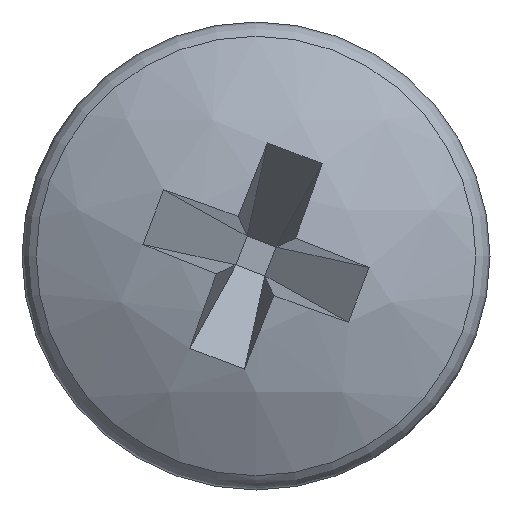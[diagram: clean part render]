
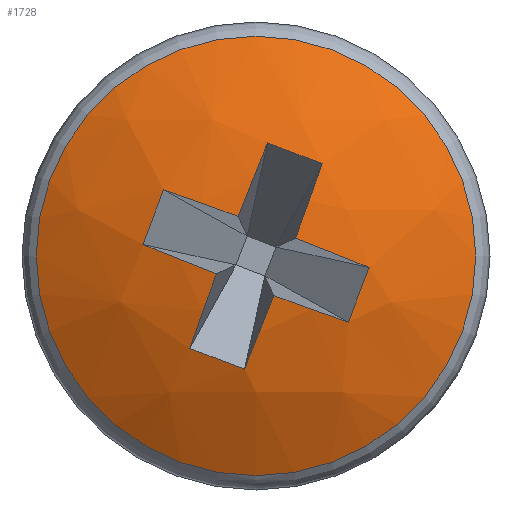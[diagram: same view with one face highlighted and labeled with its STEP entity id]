
A CAD part, front view. The second image highlights one B-rep face of the part: STEP entity #1728.
In plain terms, the highlighted spherical face has radius 5 mm.
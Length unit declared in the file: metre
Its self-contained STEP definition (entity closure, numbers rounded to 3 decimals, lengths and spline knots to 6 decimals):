
#210=B_SPLINE_CURVE_WITH_KNOTS('',3,(#2890,#2891,#2892,#2893),
 .UNSPECIFIED.,.F.,.F.,(4,4),(164.750948,175.786864),
 .UNSPECIFIED.);
#211=B_SPLINE_CURVE_WITH_KNOTS('',3,(#2896,#2897,#2898,#2899),
 .UNSPECIFIED.,.F.,.F.,(4,4),(175.71549,184.28451),
 .UNSPECIFIED.);
#212=B_SPLINE_CURVE_WITH_KNOTS('',3,(#2901,#2902,#2903,#2904),
 .UNSPECIFIED.,.F.,.F.,(4,4),(4.213136,15.249052),
 .UNSPECIFIED.);
#213=B_SPLINE_CURVE_WITH_KNOTS('',3,(#2906,#2907,#2908,#2909),
 .UNSPECIFIED.,.F.,.F.,(4,4),(344.750948,355.786864),
 .UNSPECIFIED.);
#214=B_SPLINE_CURVE_WITH_KNOTS('',3,(#2911,#2912,#2913,#2914),
 .UNSPECIFIED.,.F.,.F.,(4,4),(175.71549,184.28451),
 .UNSPECIFIED.);
#215=B_SPLINE_CURVE_WITH_KNOTS('',3,(#2916,#2917,#2918,#2919),
 .UNSPECIFIED.,.F.,.F.,(4,4),(184.213136,195.249052),
 .UNSPECIFIED.);
#216=B_SPLINE_CURVE_WITH_KNOTS('',3,(#2921,#2922,#2923,#2924),
 .UNSPECIFIED.,.F.,.F.,(4,4),(344.750948,355.786864),
 .UNSPECIFIED.);
#217=B_SPLINE_CURVE_WITH_KNOTS('',3,(#2926,#2927,#2928,#2929),
 .UNSPECIFIED.,.F.,.F.,(4,4),(355.71549,364.28451),
 .UNSPECIFIED.);
#218=B_SPLINE_CURVE_WITH_KNOTS('',3,(#2931,#2932,#2933,#2934),
 .UNSPECIFIED.,.F.,.F.,(4,4),(184.213136,195.249052),
 .UNSPECIFIED.);
#219=B_SPLINE_CURVE_WITH_KNOTS('',3,(#2936,#2937,#2938,#2939),
 .UNSPECIFIED.,.F.,.F.,(4,4),(164.750948,175.786864),
 .UNSPECIFIED.);
#220=B_SPLINE_CURVE_WITH_KNOTS('',3,(#2941,#2942,#2943,#2944),
 .UNSPECIFIED.,.F.,.F.,(4,4),(355.71549,364.28451),
 .UNSPECIFIED.);
#221=B_SPLINE_CURVE_WITH_KNOTS('',3,(#2946,#2947,#2948,#2949),
 .UNSPECIFIED.,.F.,.F.,(4,4),(4.213136,15.249052),
 .UNSPECIFIED.);
#222=ORIENTED_EDGE('',*,*,#584,.T.);
#223=ORIENTED_EDGE('',*,*,#585,.F.);
#224=ORIENTED_EDGE('',*,*,#586,.T.);
#225=ORIENTED_EDGE('',*,*,#587,.F.);
#226=ORIENTED_EDGE('',*,*,#588,.F.);
#227=ORIENTED_EDGE('',*,*,#589,.T.);
#228=ORIENTED_EDGE('',*,*,#590,.F.);
#229=ORIENTED_EDGE('',*,*,#591,.F.);
#230=ORIENTED_EDGE('',*,*,#592,.T.);
#231=ORIENTED_EDGE('',*,*,#593,.F.);
#232=ORIENTED_EDGE('',*,*,#594,.F.);
#233=ORIENTED_EDGE('',*,*,#595,.T.);
#234=ORIENTED_EDGE('',*,*,#596,.F.);
#584=EDGE_CURVE('',#765,#765,#934,.T.);
#585=EDGE_CURVE('',#766,#767,#210,.T.);
#586=EDGE_CURVE('',#766,#768,#211,.F.);
#587=EDGE_CURVE('',#769,#768,#212,.T.);
#588=EDGE_CURVE('',#770,#769,#213,.T.);
#589=EDGE_CURVE('',#770,#771,#214,.F.);
#590=EDGE_CURVE('',#772,#771,#215,.T.);
#591=EDGE_CURVE('',#773,#772,#216,.T.);
#592=EDGE_CURVE('',#773,#774,#217,.F.);
#593=EDGE_CURVE('',#775,#774,#218,.T.);
#594=EDGE_CURVE('',#776,#775,#219,.T.);
#595=EDGE_CURVE('',#776,#777,#220,.F.);
#596=EDGE_CURVE('',#767,#777,#221,.T.);
#765=VERTEX_POINT('',#2889);
#766=VERTEX_POINT('',#2894);
#767=VERTEX_POINT('',#2895);
#768=VERTEX_POINT('',#2900);
#769=VERTEX_POINT('',#2905);
#770=VERTEX_POINT('',#2910);
#771=VERTEX_POINT('',#2915);
#772=VERTEX_POINT('',#2920);
#773=VERTEX_POINT('',#2925);
#774=VERTEX_POINT('',#2930);
#775=VERTEX_POINT('',#2935);
#776=VERTEX_POINT('',#2940);
#777=VERTEX_POINT('',#2945);
#934=CIRCLE('',#1909,0.002629);
#1087=EDGE_LOOP('',(#222));
#1088=EDGE_LOOP('',(#223,#224,#225,#226,#227,#228,#229,#230,#231,#232,#233,
#234));
#1407=FACE_BOUND('',#1087,.T.);
#1408=FACE_BOUND('',#1088,.T.);
#1727=SPHERICAL_SURFACE('',#1908,0.005);
#1728=ADVANCED_FACE('',(#1407,#1408),#1727,.T.);
#1908=AXIS2_PLACEMENT_3D('',#2887,#2230,#2231);
#1909=AXIS2_PLACEMENT_3D('',#2888,#2232,#2233);
#2230=DIRECTION('',(0.,0.,1.));
#2231=DIRECTION('',(1.,0.,0.));
#2232=DIRECTION('',(0.,-1.,0.));
#2233=DIRECTION('',(0.,0.,-1.));
#2887=CARTESIAN_POINT('',(-0.0155,0.0048,-0.0155));
#2888=CARTESIAN_POINT('',(-0.0155,0.000547,-0.0155));
#2889=CARTESIAN_POINT('',(-0.0155,0.000547,-0.018129));
#2890=CARTESIAN_POINT('',(-0.014147,-0.000011,-0.015638));
#2891=CARTESIAN_POINT('',(-0.014433,-0.000095,-0.01552));
#2892=CARTESIAN_POINT('',(-0.014729,-0.00015,-0.015402));
#2893=CARTESIAN_POINT('',(-0.015027,-0.000173,-0.015287));
#2894=CARTESIAN_POINT('',(-0.014147,-0.000011,-0.015638));
#2895=CARTESIAN_POINT('',(-0.015027,-0.000173,-0.015287));
#2896=CARTESIAN_POINT('',(-0.014395,-0.000011,-0.016293));
#2897=CARTESIAN_POINT('',(-0.014303,-0.000026,-0.016079));
#2898=CARTESIAN_POINT('',(-0.01422,-0.000026,-0.015859));
#2899=CARTESIAN_POINT('',(-0.014147,-0.000011,-0.015638));
#2900=CARTESIAN_POINT('',(-0.014395,-0.000011,-0.016293));
#2901=CARTESIAN_POINT('',(-0.015287,-0.000173,-0.015973));
#2902=CARTESIAN_POINT('',(-0.014987,-0.00015,-0.016084));
#2903=CARTESIAN_POINT('',(-0.014687,-0.000095,-0.016192));
#2904=CARTESIAN_POINT('',(-0.014395,-0.000011,-0.016293));
#2905=CARTESIAN_POINT('',(-0.015287,-0.000173,-0.015973));
#2906=CARTESIAN_POINT('',(-0.015638,-0.000011,-0.016853));
#2907=CARTESIAN_POINT('',(-0.01552,-0.000095,-0.016567));
#2908=CARTESIAN_POINT('',(-0.015402,-0.00015,-0.016271));
#2909=CARTESIAN_POINT('',(-0.015287,-0.000173,-0.015973));
#2910=CARTESIAN_POINT('',(-0.015638,-0.000011,-0.016853));
#2911=CARTESIAN_POINT('',(-0.016293,-0.000011,-0.016605));
#2912=CARTESIAN_POINT('',(-0.016079,-0.000026,-0.016697));
#2913=CARTESIAN_POINT('',(-0.015859,-0.000026,-0.01678));
#2914=CARTESIAN_POINT('',(-0.015638,-0.000011,-0.016853));
#2915=CARTESIAN_POINT('',(-0.016293,-0.000011,-0.016605));
#2916=CARTESIAN_POINT('',(-0.015973,-0.000173,-0.015713));
#2917=CARTESIAN_POINT('',(-0.016084,-0.00015,-0.016013));
#2918=CARTESIAN_POINT('',(-0.016192,-0.000095,-0.016313));
#2919=CARTESIAN_POINT('',(-0.016293,-0.000011,-0.016605));
#2920=CARTESIAN_POINT('',(-0.015973,-0.000173,-0.015713));
#2921=CARTESIAN_POINT('',(-0.016853,-0.000011,-0.015362));
#2922=CARTESIAN_POINT('',(-0.016567,-0.000095,-0.01548));
#2923=CARTESIAN_POINT('',(-0.016271,-0.00015,-0.015598));
#2924=CARTESIAN_POINT('',(-0.015973,-0.000173,-0.015713));
#2925=CARTESIAN_POINT('',(-0.016853,-0.000011,-0.015362));
#2926=CARTESIAN_POINT('',(-0.016605,-0.000011,-0.014707));
#2927=CARTESIAN_POINT('',(-0.016697,-0.000026,-0.014921));
#2928=CARTESIAN_POINT('',(-0.01678,-0.000026,-0.015141));
#2929=CARTESIAN_POINT('',(-0.016853,-0.000011,-0.015362));
#2930=CARTESIAN_POINT('',(-0.016605,-0.000011,-0.014707));
#2931=CARTESIAN_POINT('',(-0.015713,-0.000173,-0.015027));
#2932=CARTESIAN_POINT('',(-0.016013,-0.00015,-0.014916));
#2933=CARTESIAN_POINT('',(-0.016313,-0.000095,-0.014808));
#2934=CARTESIAN_POINT('',(-0.016605,-0.000011,-0.014707));
#2935=CARTESIAN_POINT('',(-0.015713,-0.000173,-0.015027));
#2936=CARTESIAN_POINT('',(-0.015362,-0.000011,-0.014147));
#2937=CARTESIAN_POINT('',(-0.01548,-0.000095,-0.014433));
#2938=CARTESIAN_POINT('',(-0.015598,-0.00015,-0.014729));
#2939=CARTESIAN_POINT('',(-0.015713,-0.000173,-0.015027));
#2940=CARTESIAN_POINT('',(-0.015362,-0.000011,-0.014147));
#2941=CARTESIAN_POINT('',(-0.014707,-0.000011,-0.014395));
#2942=CARTESIAN_POINT('',(-0.014921,-0.000026,-0.014303));
#2943=CARTESIAN_POINT('',(-0.015141,-0.000026,-0.01422));
#2944=CARTESIAN_POINT('',(-0.015362,-0.000011,-0.014147));
#2945=CARTESIAN_POINT('',(-0.014707,-0.000011,-0.014395));
#2946=CARTESIAN_POINT('',(-0.015027,-0.000173,-0.015287));
#2947=CARTESIAN_POINT('',(-0.014916,-0.00015,-0.014987));
#2948=CARTESIAN_POINT('',(-0.014808,-0.000095,-0.014687));
#2949=CARTESIAN_POINT('',(-0.014707,-0.000011,-0.014395));
